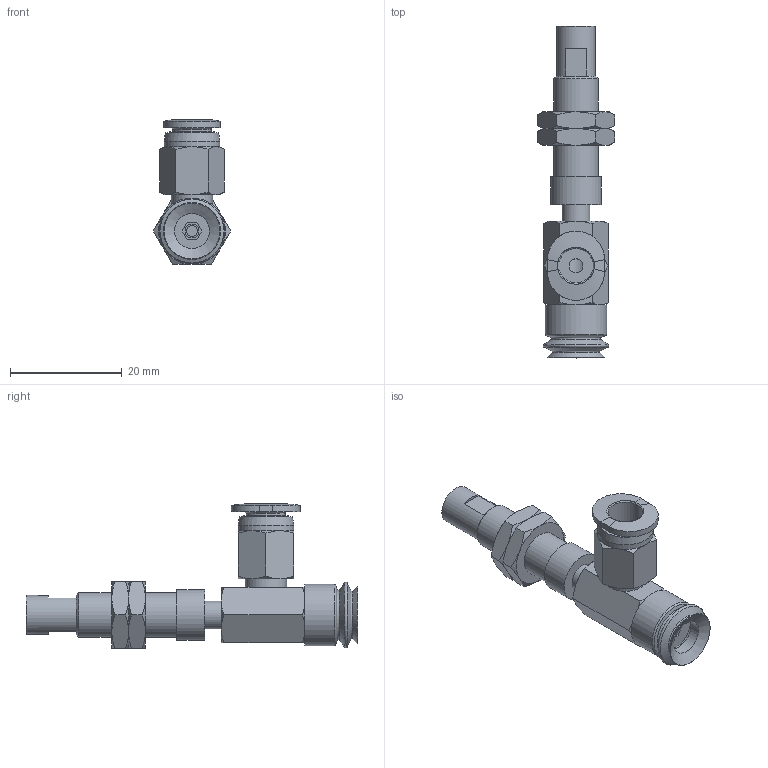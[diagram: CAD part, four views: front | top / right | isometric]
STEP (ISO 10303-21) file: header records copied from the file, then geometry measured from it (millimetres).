
FILE_DESCRIPTION(('STEP AP203'),'1');
FILE_NAME('-O.stp','2025-04-24T00:34:55',(' '),(' '),'Spatial InterOp 3D',' ',' ');
FILE_SCHEMA(('CONFIG_CONTROL_DESIGN'));
Length unit declared in the file: millimetre
Products named in the file (8): BNABPJYS-10-3-※-O; Adapter-10-NAPJ; CONNECTOR_S-10-3; NUT-NAPJ-10-3-s; NAPJTS-10-3-FBODY; NAPJTS-10-3-MBODY; BPJG-10-※; PC-C_06-M5
Assembly tree (8 placements, depth 2):
  BNABPJYS-10-3-※-O
    Adapter-10-NAPJ
    CONNECTOR_S-10-3
    NUT-NAPJ-10-3-s  x2
    NAPJTS-10-3-FBODY
    NAPJTS-10-3-MBODY
    BPJG-10-※
    PC-C_06-M5
Bounding box: 13.86 x 59.5 x 25.98 mm (x, y, z)
Volume: 3821.6 mm3; surface area: 5727.1 mm2
Topology: 7 solids, 10 shells, 187 faces, 389 edges, 236 vertices
Faces by surface type: plane 74, cone 69, cylinder 28, torus 9, bspline 4, revolution 3
Full cylindrical faces by diameter (mm): 2 x1, 2.5 x1, 4 x2, 4.134 x3, 4.6 x1, 5 x5, 6.266 x1, 7 x2, 7.188 x2, 7.4 x1, 7.8 x1, 8 x2, 8.2 x1, 9 x1, 10 x1, 11 x1
Entity records: 4798 total; most frequent: CARTESIAN_POINT 1282, DIRECTION 653, ORIENTED_EDGE 546, AXIS2_PLACEMENT_3D 288, EDGE_CURVE 275, EDGE_LOOP 248, VERTEX_POINT 197, FACE_OUTER_BOUND 138
